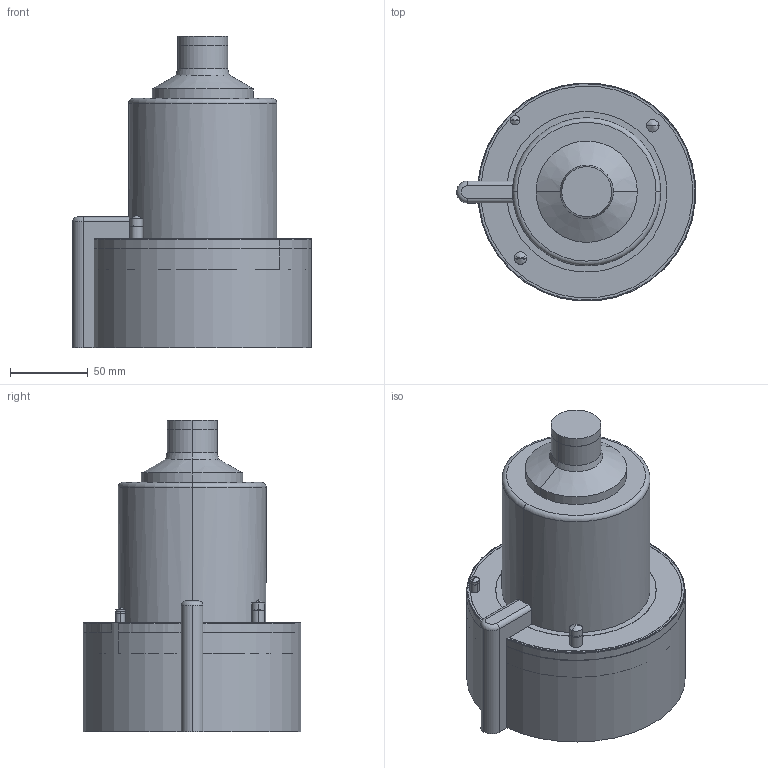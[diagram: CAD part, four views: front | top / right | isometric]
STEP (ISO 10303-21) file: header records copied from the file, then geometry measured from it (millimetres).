
FILE_DESCRIPTION (( 'STEP AP214' ), '1' );
FILE_NAME ('SB24B_CLOSED_A150.STEP', '2009-07-28T13:56:33', ( 'Synventive Molding Solutions' ), ( 'Synventive Molding Solutions' ), 'SwSTEP 2.0', 'SolidWorks 2008', '' );
FILE_SCHEMA (( 'AUTOMOTIVE_DESIGN' ));
Length unit declared in the file: millimetre
Products named in the file (1): SB24B_CLOSED_A150
Bounding box: 153.29 x 139.67 x 200 mm (x, y, z)
Volume: 2584080.5 mm3; surface area: 229914.5 mm2
Topology: 5 solids, 10 shells, 471 faces, 1129 edges, 697 vertices
Faces by surface type: cylinder 183, plane 156, cone 64, torus 62, sphere 4, bspline 2
Entity records: 19864 total; most frequent: CARTESIAN_POINT 3535, DIRECTION 2463, ORIENTED_EDGE 2226, EDGE_CURVE 1113, AXIS2_PLACEMENT_3D 989, VERTEX_POINT 697, EDGE_LOOP 522, CIRCLE 519
